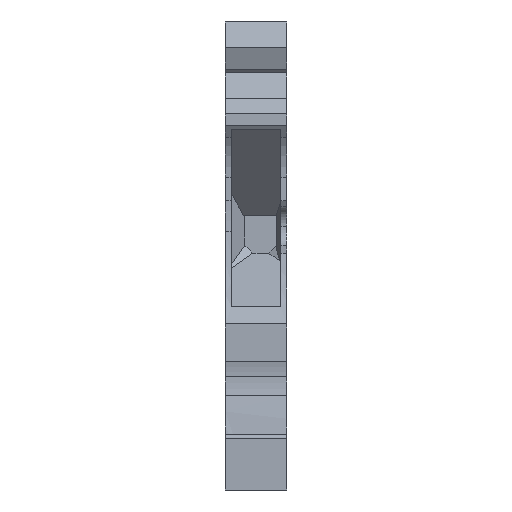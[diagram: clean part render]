
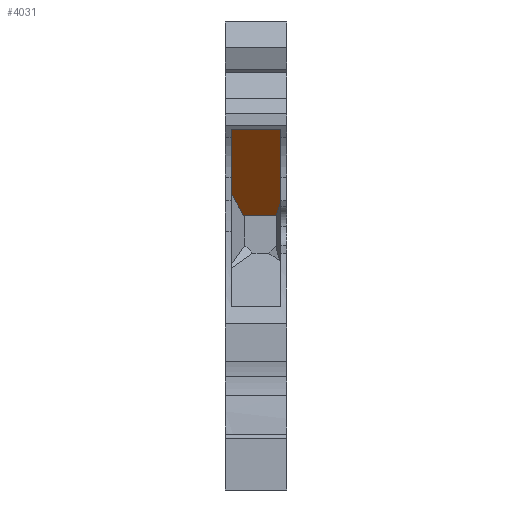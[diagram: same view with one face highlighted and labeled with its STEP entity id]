
A CAD part, front view. The second image highlights one B-rep face of the part: STEP entity #4031.
In plain terms, the highlighted planar face has unit normal (0, -0.715, -0.699).
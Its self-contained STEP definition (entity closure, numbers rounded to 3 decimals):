
#3888=CARTESIAN_POINT('',(5.55,2.428,36.125));
#3889=VERTEX_POINT('',#3888);
#3896=CARTESIAN_POINT('',(5.55,9.596,28.789));
#3897=VERTEX_POINT('',#3896);
#3898=CARTESIAN_POINT('',(5.55,2.428,36.125));
#3899=DIRECTION('',(0.,0.699,-0.715));
#3900=VECTOR('',#3899,10.256);
#3901=LINE('',#3898,#3900);
#3902=EDGE_CURVE('',#3889,#3897,#3901,.T.);
#3918=CARTESIAN_POINT('',(0.6,8.737,29.669));
#3919=VERTEX_POINT('',#3918);
#3928=CARTESIAN_POINT('',(0.6,2.428,36.125));
#3929=VERTEX_POINT('',#3928);
#3930=CARTESIAN_POINT('',(0.6,8.737,29.669));
#3931=DIRECTION('',(-0.,-0.699,0.715));
#3932=VECTOR('',#3931,9.027);
#3933=LINE('',#3930,#3932);
#3934=EDGE_CURVE('',#3919,#3929,#3933,.T.);
#3986=CARTESIAN_POINT('',(6.765,10.275,28.095));
#3987=DIRECTION('',(-0.,0.715,0.699));
#3988=DIRECTION('',(-0.,-0.699,0.715));
#3989=AXIS2_PLACEMENT_3D('',#3986,#3987,#3988);
#3990=PLANE('',#3989);
#3991=CARTESIAN_POINT('',(5.15,10.675,27.685));
#3992=VERTEX_POINT('',#3991);
#3993=CARTESIAN_POINT('',(5.15,10.856,27.5));
#3994=VERTEX_POINT('',#3993);
#3995=CARTESIAN_POINT('',(5.15,10.675,27.685));
#3996=DIRECTION('',(0.,0.699,-0.715));
#3997=VECTOR('',#3996,0.259);
#3998=LINE('',#3995,#3997);
#3999=EDGE_CURVE('',#3992,#3994,#3998,.T.);
#4000=ORIENTED_EDGE('',*,*,#3999,.F.);
#4001=CARTESIAN_POINT('',(5.15,10.675,27.685));
#4002=DIRECTION('',(0.251,-0.677,0.692));
#4003=VECTOR('',#4002,1.595);
#4004=LINE('',#4001,#4003);
#4005=EDGE_CURVE('',#3992,#3897,#4004,.T.);
#4006=ORIENTED_EDGE('',*,*,#4005,.T.);
#4007=ORIENTED_EDGE('',*,*,#3902,.F.);
#4008=CARTESIAN_POINT('',(0.6,2.428,36.125));
#4009=DIRECTION('',(1.,-0.,0.));
#4010=VECTOR('',#4009,4.95);
#4011=LINE('',#4008,#4010);
#4012=EDGE_CURVE('',#3929,#3889,#4011,.T.);
#4013=ORIENTED_EDGE('',*,*,#4012,.F.);
#4014=ORIENTED_EDGE('',*,*,#3934,.F.);
#4015=CARTESIAN_POINT('',(1.824,10.856,27.5));
#4016=VERTEX_POINT('',#4015);
#4017=CARTESIAN_POINT('',(1.824,10.856,27.5));
#4018=DIRECTION('',(-0.374,-0.648,0.663));
#4019=VECTOR('',#4018,3.27);
#4020=LINE('',#4017,#4019);
#4021=EDGE_CURVE('',#4016,#3919,#4020,.T.);
#4022=ORIENTED_EDGE('',*,*,#4021,.F.);
#4023=CARTESIAN_POINT('',(5.15,10.856,27.5));
#4024=DIRECTION('',(-1.,0.,-0.));
#4025=VECTOR('',#4024,3.326);
#4026=LINE('',#4023,#4025);
#4027=EDGE_CURVE('',#3994,#4016,#4026,.T.);
#4028=ORIENTED_EDGE('',*,*,#4027,.F.);
#4029=EDGE_LOOP('',(#4000,#4006,#4007,#4013,#4014,#4022,#4028));
#4030=FACE_BOUND('',#4029,.T.);
#4031=ADVANCED_FACE('',(#4030),#3990,.F.);
